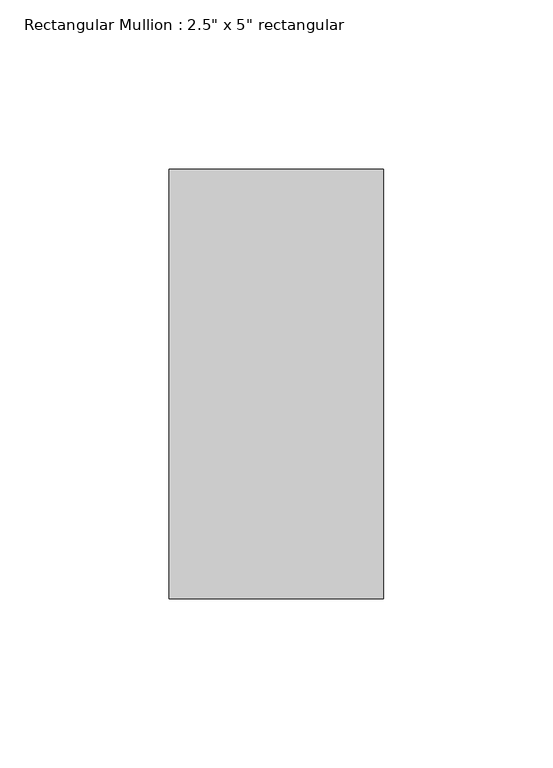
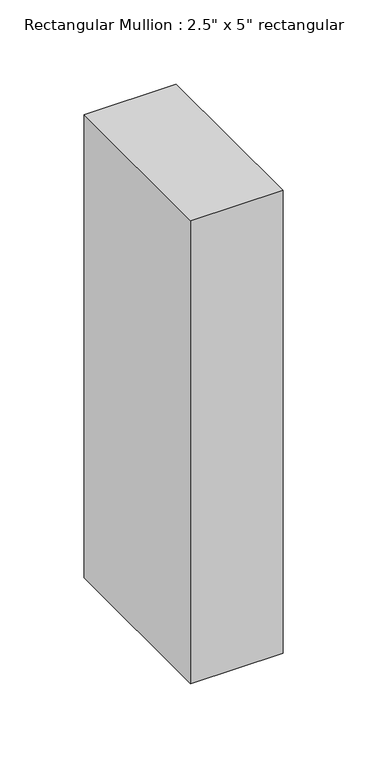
"""IFC4 building model written with IfcOpenShell, lengths in millimetres: member geometry."""

from ifc_helpers import new_model, si_unit, frame, origin, place, context, project, spatial, polyline, outline, extrude, source, transform, mapped, element, save


def member_02b8d6b6(model_context):
    return source(origin(), model_context, "Body", "SweptSolid", [
        extrude(outline(polyline([(0.0, 63.5), (0.0, -63.5), (-63.5, -63.5), (-63.5, 63.5), (0.0, 63.5)])), frame((0.0, 0.0, -336.55), z_axis=(0.0, 0.0, 1.0), x_axis=(1.0, 0.0, 0.0)), (0.0, 0.0, 1.0), 336.55),
    ])


if __name__ == "__main__":
    model = new_model("IFC4")
    model_context = context("Model", 3, world=origin())
    ifc_project = project(units=[si_unit("LENGTHUNIT", "METRE", prefix="MILLI")], contexts=[model_context])
    site = spatial("IfcSite", under=ifc_project)
    building = spatial("IfcBuilding", under=site)
    placement = place(None, origin())
    member_shape = member_02b8d6b6(model_context)
    element("IfcMember", 1, ObjectType="Rectangular Mullion : 2.5\" x 5\" rectangular", at=placement, inside=building, context=model_context, shape_type="MappedRepresentation", body=[
        mapped(member_shape, transform((0.0, 0.0, 0.0), x_axis=(1.0, 0.0, 0.0), y_axis=(0.0, 1.0, 0.0), z_axis=(0.0, 0.0, 1.0))),
    ])
    save(model, "model.ifc")
